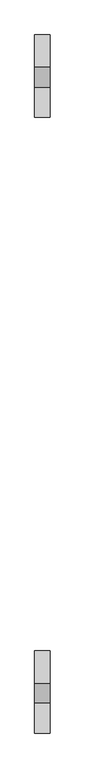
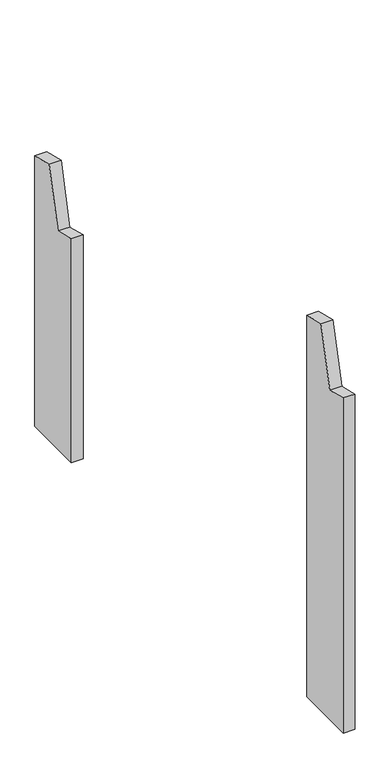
"""IFC4 building model written with IfcOpenShell, lengths in millimetres: proxy geometry, Modelos genéricos 146 : Modelos genéricos 5."""

from ifc_helpers import new_model, si_unit, frame, origin, place, context, project, spatial, polyline, outline, extrude, source, transform, mapped, element, save


def generic_models_421d1b63(model_context):
    return source(origin(), model_context, "Body", "SweptSolid", [
        extrude(outline(polyline([(3268.6238165, 3000.0), (3268.6238165, 3898.0915281), (3326.8415601, 3883.5762143), (3365.5490634, 4038.8235305), (3428.6238165, 4023.0972283), (3428.6238165, 3000.0), (3268.6238165, 3000.0)])), frame((12933.4472467, 0.0, 0.0), z_axis=(1.0, 0.0, 0.0), x_axis=(0.0, 1.0, 0.0)), (0.0, 0.0, 1.0), 30.0),
        extrude(outline(polyline([(4463.6238165, 3000.0), (4463.6238165, 3600.1445647), (4521.8415601, 3585.6292509), (4560.5490634, 3740.8765671), (4623.6238165, 3725.1502649), (4623.6238165, 3000.0), (4463.6238165, 3000.0)])), frame((12933.4472467, 0.0, 0.0), z_axis=(1.0, 0.0, 0.0), x_axis=(0.0, 1.0, 0.0)), (0.0, 0.0, 1.0), 30.0),
    ])


if __name__ == "__main__":
    model = new_model("IFC4")
    model_context = context("Model", 3, world=origin())
    ifc_project = project(units=[si_unit("LENGTHUNIT", "METRE", prefix="MILLI")], contexts=[model_context])
    site = spatial("IfcSite", under=ifc_project)
    building = spatial("IfcBuilding", under=site)
    placement = place(None, origin())
    generic_models_shape = generic_models_421d1b63(model_context)
    element("IfcBuildingElementProxy", 1, Name="Modelos genéricos 146 : Modelos genéricos 5", ObjectType="Modelos genéricos 146 : Modelos genéricos 5", at=placement, inside=building, context=model_context, shape_type="MappedRepresentation", body=[
        mapped(generic_models_shape, transform((0.0, 0.0, 0.0), x_axis=(1.0, 0.0, 0.0), y_axis=(0.0, 1.0, 0.0), z_axis=(0.0, 0.0, 1.0))),
    ])
    save(model, "model.ifc")
